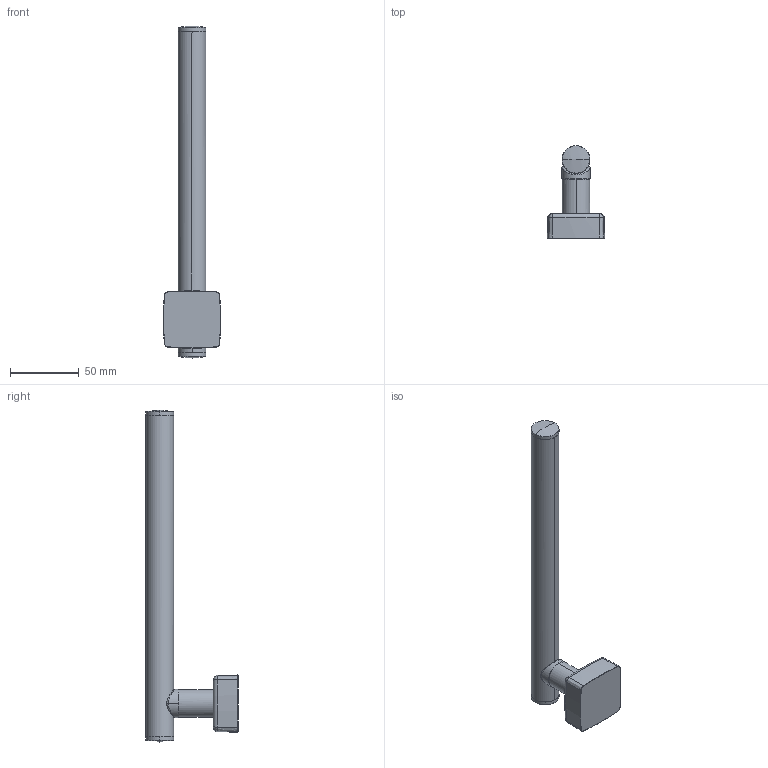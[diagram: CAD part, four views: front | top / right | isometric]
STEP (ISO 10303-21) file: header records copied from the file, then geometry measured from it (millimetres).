
FILE_DESCRIPTION(('THIS FILE CONTAINS SOME STEP INSTANCES'),'1');
FILE_NAME('esp_021.stp','2015-11-30T11:50:41',('UNDEFINED'),('UNDEFINED'),'T-FLEX CAD STEP converter','T-FLEX CAD','');
FILE_SCHEMA(('CONFIG_CONTROL_DESIGN'));
Length unit declared in the file: metre
Products named in the file (1): 3D 鐨飹懤艜_21
Bounding box: 41.62 x 67 x 241 mm (x, y, z)
Volume: 114255.7 mm3; surface area: 23776 mm2
Topology: 1 solids, 3 shells, 65 faces, 139 edges, 78 vertices
Faces by surface type: cone 20, cylinder 16, bspline 10, sphere 8, plane 7, torus 4
Entity records: 4410 total; most frequent: CARTESIAN_POINT 3239, ORIENTED_EDGE 270, DIRECTION 202, EDGE_CURVE 135, AXIS2_PLACEMENT_3D 87, VERTEX_POINT 78, EDGE_LOOP 67, ADVANCED_FACE 65
